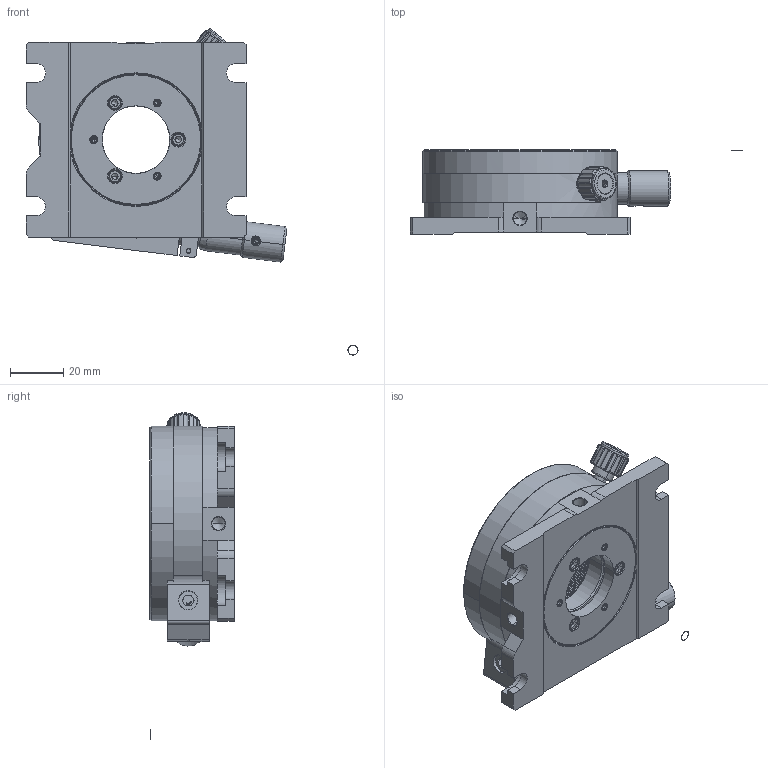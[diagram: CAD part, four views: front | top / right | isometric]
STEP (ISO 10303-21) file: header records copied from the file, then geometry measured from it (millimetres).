
FILE_DESCRIPTION((''),'2;1');
FILE_NAME('R-TSX-M_ASM','2021-07-01T',('Administrator'),(''),'CREO PARAMETRIC BY PTC INC, 2017300','CREO PARAMETRIC BY PTC INC, 2017300','');
FILE_SCHEMA(('CONFIG_CONTROL_DESIGN'));
Products named in the file (17): R-TSX-M_A1; R-TSX-M_A2; R-TSX-M_A3; R-TSX-M_A6; R-TSX-M_A7; R-TSX-M_A8; R-TSX-M_A9; M2X13_HM; M3X6_HM; M3X4_HS; R-TSX-M_A10; R-TSX-M_A11; M3X3_HS; R-TSX-M_A12; R-TSX-M_A13; SPRING_3X30; R-TSX-M_ASM
Assembly tree (16 placements, depth 2):
  R-TSX-M_ASM
    R-TSX-M_A1
    R-TSX-M_A2
    R-TSX-M_A3
    R-TSX-M_A6
    R-TSX-M_A7
    R-TSX-M_A8
    R-TSX-M_A9
    M2X13_HM
    M3X6_HM
    M3X4_HS
    R-TSX-M_A10
    R-TSX-M_A11
    M3X3_HS
    R-TSX-M_A12
    R-TSX-M_A13
    SPRING_3X30
Bounding box: 124.57 x 31.76 x 122.49 mm (x, y, z)
Volume: 127930.9 mm3; surface area: 59701.3 mm2
Topology: 21 solids, 27 shells, 1372 faces, 3651 edges, 2320 vertices
Faces by surface type: cylinder 734, plane 270, bspline 167, cone 161, torus 34, sphere 6
Entity records: 96347 total; most frequent: CARTESIAN_POINT 64881, ORIENTED_EDGE 7165, DIRECTION 5344, EDGE_CURVE 3597, VERTEX_POINT 2320, AXIS2_PLACEMENT_3D 1919, VECTOR 1506, LINE 1506
